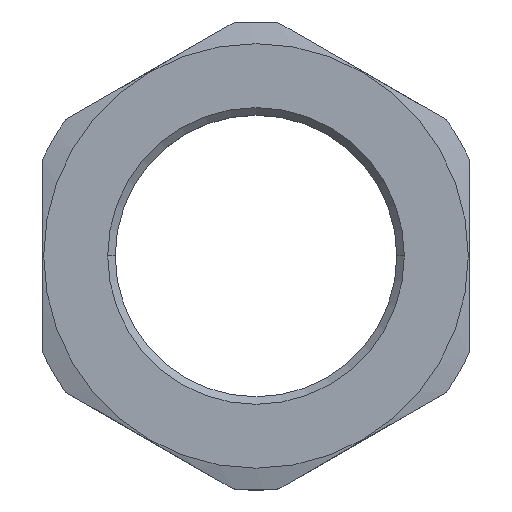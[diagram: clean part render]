
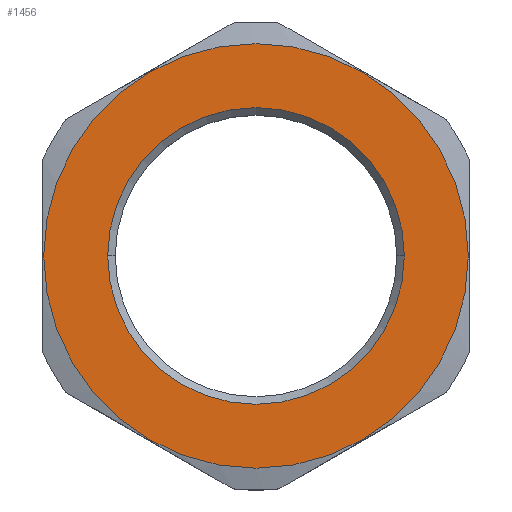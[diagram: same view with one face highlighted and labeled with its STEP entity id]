
A CAD part, top view. The second image highlights one B-rep face of the part: STEP entity #1456.
In plain terms, the highlighted planar face has unit normal (0, 0, 1).
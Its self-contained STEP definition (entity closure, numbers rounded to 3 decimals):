
#307 = DIRECTION ( 'NONE',  ( 1., 0., 0. ) ) ;
#308 = DIRECTION ( 'NONE',  ( 0., 0., 1. ) ) ;
#309 = CARTESIAN_POINT ( 'NONE',  ( 0., 0., 0. ) ) ;
#310 = AXIS2_PLACEMENT_3D ( 'NONE', #309, #308, #307 ) ;
#311 = CIRCLE ( 'NONE', #310, 16. ) ;
#411 = DIRECTION ( 'NONE',  ( -1., 0., 0. ) ) ;
#412 = DIRECTION ( 'NONE',  ( 0., 0., -1. ) ) ;
#413 = CARTESIAN_POINT ( 'NONE',  ( 0., 0., 0. ) ) ;
#414 = AXIS2_PLACEMENT_3D ( 'NONE', #413, #412, #411 ) ;
#435 = FACE_OUTER_BOUND ( 'NONE', #1457, .T. ) ;
#436 = FACE_BOUND ( 'NONE', #1414, .T. ) ;
#446 = PLANE ( 'NONE',  #414 ) ;
#552 = CARTESIAN_POINT ( 'NONE',  ( -22.9, 0., 0. ) ) ;
#925 = DIRECTION ( 'NONE',  ( 1., 0., 0. ) ) ;
#932 = DIRECTION ( 'NONE',  ( 1., 0., 0. ) ) ;
#933 = DIRECTION ( 'NONE',  ( 0., 0., 1. ) ) ;
#934 = CARTESIAN_POINT ( 'NONE',  ( 0., 0., 0. ) ) ;
#935 = AXIS2_PLACEMENT_3D ( 'NONE', #934, #933, #932 ) ;
#936 = CIRCLE ( 'NONE', #935, 22.9 ) ;
#968 = DIRECTION ( 'NONE',  ( 0., 0., 1. ) ) ;
#969 = CARTESIAN_POINT ( 'NONE',  ( 0., 0., 0. ) ) ;
#970 = AXIS2_PLACEMENT_3D ( 'NONE', #969, #968, #925 ) ;
#971 = CIRCLE ( 'NONE', #970, 16. ) ;
#998 = CARTESIAN_POINT ( 'NONE',  ( 22.9, 0., 0. ) ) ;
#1037 = DIRECTION ( 'NONE',  ( 1., 0., 0. ) ) ;
#1055 = CARTESIAN_POINT ( 'NONE',  ( 0., 0., 0. ) ) ;
#1057 = DIRECTION ( 'NONE',  ( 0., 0., 1. ) ) ;
#1058 = AXIS2_PLACEMENT_3D ( 'NONE', #1055, #1057, #1037 ) ;
#1059 = CIRCLE ( 'NONE', #1058, 22.9 ) ;
#1283 = CARTESIAN_POINT ( 'NONE',  ( -16., 0., 0. ) ) ;
#1284 = CARTESIAN_POINT ( 'NONE',  ( 16., 0., 0. ) ) ;
#1411 = ORIENTED_EDGE ( 'NONE', *, *, #1412, .F. ) ;
#1412 = EDGE_CURVE ( 'NONE', #1575, #1576, #311, .T. ) ;
#1413 = ORIENTED_EDGE ( 'NONE', *, *, #1618, .F. ) ;
#1414 = EDGE_LOOP ( 'NONE', ( #1411, #1413 ) ) ;
#1455 = ORIENTED_EDGE ( 'NONE', *, *, #1593, .T. ) ;
#1456 = ADVANCED_FACE ( 'NONE', ( #436, #435 ), #446, .F. ) ;
#1457 = EDGE_LOOP ( 'NONE', ( #1455, #1469 ) ) ;
#1469 = ORIENTED_EDGE ( 'NONE', *, *, #1641, .T. ) ;
#1556 = VERTEX_POINT ( 'NONE', #552 ) ;
#1575 = VERTEX_POINT ( 'NONE', #1284 ) ;
#1576 = VERTEX_POINT ( 'NONE', #1283 ) ;
#1593 = EDGE_CURVE ( 'NONE', #1556, #1628, #936, .T. ) ;
#1618 = EDGE_CURVE ( 'NONE', #1576, #1575, #971, .T. ) ;
#1628 = VERTEX_POINT ( 'NONE', #998 ) ;
#1641 = EDGE_CURVE ( 'NONE', #1628, #1556, #1059, .T. ) ;
